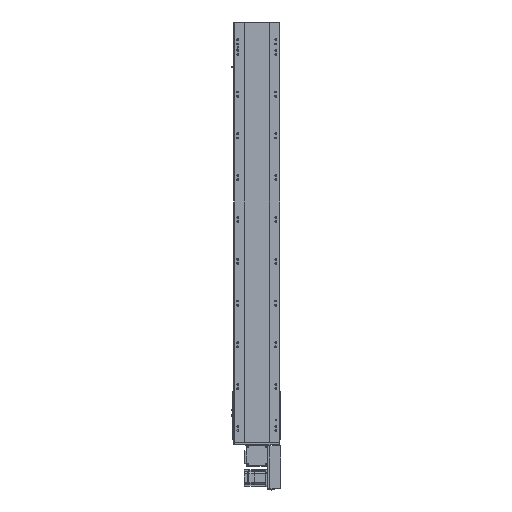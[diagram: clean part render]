
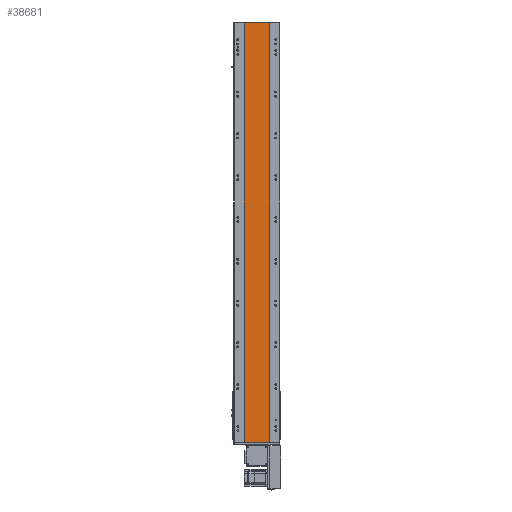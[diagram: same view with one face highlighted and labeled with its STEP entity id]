
A CAD part, front view. The second image highlights one B-rep face of the part: STEP entity #38681.
In plain terms, the highlighted planar face has unit normal (0, -1, 0).
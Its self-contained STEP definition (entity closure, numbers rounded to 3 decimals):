
#10 = ORIENTED_EDGE ( 'NONE', *, *, #6720, .F. ) ;
#822 = CARTESIAN_POINT ( 'NONE',  ( 0., 155.016, 2007. ) ) ;
#2191 = LINE ( 'NONE', #35401, #49742 ) ;
#3537 = DIRECTION ( 'NONE',  ( 0., 0., -1. ) ) ;
#3690 = VERTEX_POINT ( 'NONE', #4134 ) ;
#4134 = CARTESIAN_POINT ( 'NONE',  ( 551.58, 155.016, 0. ) ) ;
#4376 = CARTESIAN_POINT ( 'NONE',  ( 432.408, 155.016, 2007. ) ) ;
#5978 = ORIENTED_EDGE ( 'NONE', *, *, #49340, .T. ) ;
#6720 = EDGE_CURVE ( 'NONE', #41639, #32832, #2191, .T. ) ;
#10089 = EDGE_CURVE ( 'NONE', #32832, #3690, #24070, .T. ) ;
#11757 = VERTEX_POINT ( 'NONE', #17140 ) ;
#13535 = DIRECTION ( 'NONE',  ( 0., 0., 1. ) ) ;
#14570 = VECTOR ( 'NONE', #3537, 1000. ) ;
#15164 = DIRECTION ( 'NONE',  ( 1., 0., 0. ) ) ;
#15286 = EDGE_CURVE ( 'NONE', #41639, #11757, #48950, .T. ) ;
#16795 = DIRECTION ( 'NONE',  ( 0., 1., 0. ) ) ;
#17140 = CARTESIAN_POINT ( 'NONE',  ( 432.408, 155.016, 0. ) ) ;
#19520 = FACE_OUTER_BOUND ( 'NONE', #41303, .T. ) ;
#20835 = CARTESIAN_POINT ( 'NONE',  ( 0., 155.016, 0. ) ) ;
#21365 = ORIENTED_EDGE ( 'NONE', *, *, #10089, .F. ) ;
#22152 = AXIS2_PLACEMENT_3D ( 'NONE', #822, #16795, #13535 ) ;
#24070 = LINE ( 'NONE', #40547, #14570 ) ;
#24383 = DIRECTION ( 'NONE',  ( 0., 0., -1. ) ) ;
#27639 = VECTOR ( 'NONE', #36231, 1000. ) ;
#28655 = LINE ( 'NONE', #20835, #27639 ) ;
#28931 = CARTESIAN_POINT ( 'NONE',  ( 551.58, 155.016, 2007. ) ) ;
#29882 = VECTOR ( 'NONE', #24383, 1000. ) ;
#32832 = VERTEX_POINT ( 'NONE', #28931 ) ;
#35401 = CARTESIAN_POINT ( 'NONE',  ( 0., 155.016, 2007. ) ) ;
#36231 = DIRECTION ( 'NONE',  ( 1., 0., 0. ) ) ;
#38129 = PLANE ( 'NONE',  #22152 ) ;
#38681 = ADVANCED_FACE ( 'NONE', ( #19520 ), #38129, .F. ) ;
#39427 = ORIENTED_EDGE ( 'NONE', *, *, #15286, .T. ) ;
#40547 = CARTESIAN_POINT ( 'NONE',  ( 551.58, 155.016, 2007. ) ) ;
#41303 = EDGE_LOOP ( 'NONE', ( #5978, #21365, #10, #39427 ) ) ;
#41639 = VERTEX_POINT ( 'NONE', #47140 ) ;
#47140 = CARTESIAN_POINT ( 'NONE',  ( 432.408, 155.016, 2007. ) ) ;
#48950 = LINE ( 'NONE', #4376, #29882 ) ;
#49340 = EDGE_CURVE ( 'NONE', #11757, #3690, #28655, .T. ) ;
#49742 = VECTOR ( 'NONE', #15164, 1000. ) ;
